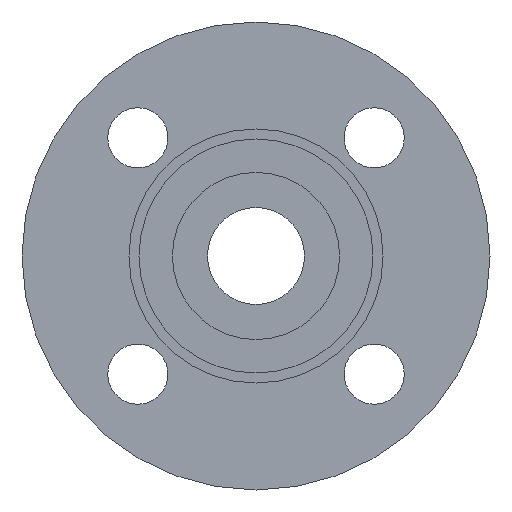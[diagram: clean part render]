
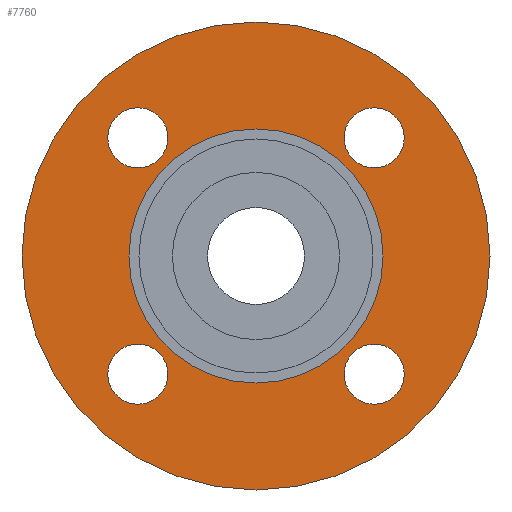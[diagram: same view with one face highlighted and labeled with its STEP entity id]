
A CAD part, left-side view. The second image highlights one B-rep face of the part: STEP entity #7760.
In plain terms, the highlighted planar face has unit normal (-1, 0, 0).
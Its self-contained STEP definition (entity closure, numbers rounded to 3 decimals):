
#7760=ADVANCED_FACE('',(#13893,#13895,#13897,#13899,#13901,#13903),#13905,.T.);
#13893=FACE_BOUND('',#13894,.T.);
#13894=EDGE_LOOP('',(#18998,#18999));
#13895=FACE_BOUND('',#13896,.T.);
#13896=EDGE_LOOP('',(#19000));
#13897=FACE_BOUND('',#13898,.T.);
#13898=EDGE_LOOP('',(#19001));
#13899=FACE_BOUND('',#13900,.T.);
#13900=EDGE_LOOP('',(#19002));
#13901=FACE_BOUND('',#13902,.T.);
#13902=EDGE_LOOP('',(#19003));
#13903=FACE_BOUND('',#13904,.T.);
#13904=EDGE_LOOP('',(#19004,#19005));
#13905=PLANE('',#13906);
#13906=AXIS2_PLACEMENT_3D('',#13907,#13908,#13909);
#13907=CARTESIAN_POINT('',(17966.816,-12620.742,0.));
#13908=DIRECTION('',(-1.,0.,0.));
#13909=DIRECTION('',(0.,0.,1.));
#18998=ORIENTED_EDGE('',*,*,#21547,.F.);
#18999=ORIENTED_EDGE('',*,*,#21548,.F.);
#19000=ORIENTED_EDGE('',*,*,#21514,.T.);
#19001=ORIENTED_EDGE('',*,*,#21516,.T.);
#19002=ORIENTED_EDGE('',*,*,#21518,.T.);
#19003=ORIENTED_EDGE('',*,*,#21512,.T.);
#19004=ORIENTED_EDGE('',*,*,#21545,.T.);
#19005=ORIENTED_EDGE('',*,*,#21546,.T.);
#21512=EDGE_CURVE('',#25647,#25647,#25648,.T.);
#21514=EDGE_CURVE('',#25651,#25651,#25652,.T.);
#21516=EDGE_CURVE('',#25655,#25655,#25656,.T.);
#21518=EDGE_CURVE('',#25659,#25659,#25660,.T.);
#21545=EDGE_CURVE('',#25713,#25714,#25715,.T.);
#21546=EDGE_CURVE('',#25714,#25713,#25716,.T.);
#21547=EDGE_CURVE('',#25717,#25718,#25719,.T.);
#21548=EDGE_CURVE('',#25718,#25717,#25720,.T.);
#25647=VERTEX_POINT('',#34735);
#25648=CIRCLE('',#34736,9.);
#25651=VERTEX_POINT('',#34745);
#25652=CIRCLE('',#34746,9.);
#25655=VERTEX_POINT('',#34755);
#25656=CIRCLE('',#34756,9.);
#25659=VERTEX_POINT('',#34765);
#25660=CIRCLE('',#34766,9.);
#25713=VERTEX_POINT('',#34900);
#25714=VERTEX_POINT('',#34901);
#25715=CIRCLE('',#34902,38.);
#25716=CIRCLE('',#34906,38.);
#25717=VERTEX_POINT('',#34910);
#25718=VERTEX_POINT('',#34911);
#25719=CIRCLE('',#34912,70.);
#25720=CIRCLE('',#34916,70.);
#34735=CARTESIAN_POINT('',(17966.816,-12595.097,-35.355));
#34736=AXIS2_PLACEMENT_3D('',#34737,#34738,#34739);
#34737=CARTESIAN_POINT('',(17966.816,-12586.097,-35.355));
#34738=DIRECTION('',(1.,0.,0.));
#34739=DIRECTION('',(0.,-1.,0.));
#34745=CARTESIAN_POINT('',(17966.816,-12524.387,-35.355));
#34746=AXIS2_PLACEMENT_3D('',#34747,#34748,#34749);
#34747=CARTESIAN_POINT('',(17966.816,-12515.387,-35.355));
#34748=DIRECTION('',(1.,0.,0.));
#34749=DIRECTION('',(0.,-1.,0.));
#34755=CARTESIAN_POINT('',(17966.816,-12524.387,35.355));
#34756=AXIS2_PLACEMENT_3D('',#34757,#34758,#34759);
#34757=CARTESIAN_POINT('',(17966.816,-12515.387,35.355));
#34758=DIRECTION('',(1.,0.,0.));
#34759=DIRECTION('',(0.,-1.,0.));
#34765=CARTESIAN_POINT('',(17966.816,-12595.097,35.355));
#34766=AXIS2_PLACEMENT_3D('',#34767,#34768,#34769);
#34767=CARTESIAN_POINT('',(17966.816,-12586.097,35.355));
#34768=DIRECTION('',(1.,0.,0.));
#34769=DIRECTION('',(0.,-1.,0.));
#34900=CARTESIAN_POINT('',(17966.816,-12588.742,0.));
#34901=CARTESIAN_POINT('',(17966.816,-12512.742,0.));
#34902=AXIS2_PLACEMENT_3D('',#34903,#34904,#34905);
#34903=CARTESIAN_POINT('',(17966.816,-12550.742,0.));
#34904=DIRECTION('',(1.,0.,0.));
#34905=DIRECTION('',(0.,-1.,0.));
#34906=AXIS2_PLACEMENT_3D('',#34907,#34908,#34909);
#34907=CARTESIAN_POINT('',(17966.816,-12550.742,0.));
#34908=DIRECTION('',(1.,0.,0.));
#34909=DIRECTION('',(0.,1.,0.));
#34910=CARTESIAN_POINT('',(17966.816,-12480.742,0.));
#34911=CARTESIAN_POINT('',(17966.816,-12620.742,0.));
#34912=AXIS2_PLACEMENT_3D('',#34913,#34914,#34915);
#34913=CARTESIAN_POINT('',(17966.816,-12550.742,0.));
#34914=DIRECTION('',(1.,0.,0.));
#34915=DIRECTION('',(0.,1.,0.));
#34916=AXIS2_PLACEMENT_3D('',#34917,#34918,#34919);
#34917=CARTESIAN_POINT('',(17966.816,-12550.742,0.));
#34918=DIRECTION('',(1.,0.,0.));
#34919=DIRECTION('',(0.,-1.,0.));
